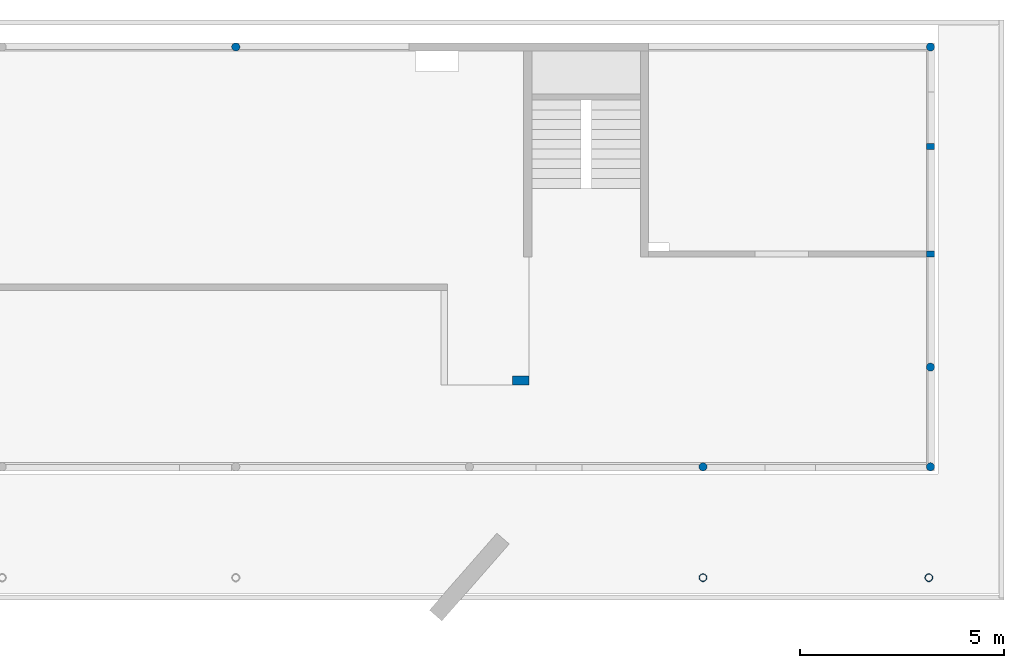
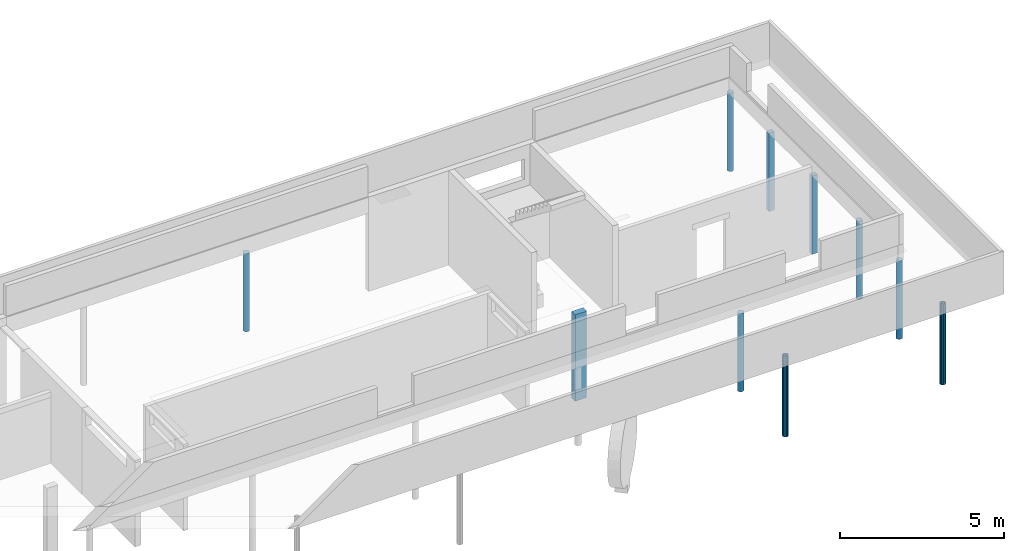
# One storey, part 2 of 5: 10 columns.
"""IFC4 building model written with IfcOpenShell, lengths in metres."""

from ifc_helpers import new_model, entity, si_unit, converted_unit, derived_unit, frame, frame_2d, origin, origin_with_axes, place, context, subcontext, project, spatial, polyline, rectangle, outline, extrude, material, element, save


model = new_model("IFC4")

# Units and contexts
model_context = context("Model", 3, precision=1e-05, world=origin())
plan_context = context("Plan", 2, precision=1e-05, world=origin())
body_context = subcontext(model_context, "Body", "Model", "MODEL_VIEW")
ifc_project = project(units=[si_unit("LENGTHUNIT", "METRE"), si_unit("AREAUNIT", "SQUARE_METRE"), si_unit("VOLUMEUNIT", "CUBIC_METRE"), si_unit("MASSUNIT", "GRAM", prefix="KILO"), converted_unit("PLANEANGLEUNIT", "DEGREE", entity("IfcPlaneAngleMeasure", 0.0174532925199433), si_unit("PLANEANGLEUNIT", "RADIAN"), dimensions=[0, 0, 0, 0, 0, 0, 0]), derived_unit("THERMALTRANSMITTANCEUNIT", [(si_unit("POWERUNIT", "WATT"), 1), (si_unit("THERMODYNAMICTEMPERATUREUNIT", "KELVIN"), -1), (si_unit("LENGTHUNIT", "METRE"), -2)]), derived_unit("VOLUMETRICFLOWRATEUNIT", [(si_unit("LENGTHUNIT", "METRE"), 3), (converted_unit("TIMEUNIT", "hour", entity("IfcTimeMeasure", 3600.0), si_unit("TIMEUNIT", "SECOND"), dimensions=[0, 0, 1, 0, 0, 0, 0]), -1), (si_unit("LENGTHUNIT", "METRE"), -1)])], contexts=[model_context, plan_context])

# Site, building, storey
site_placement = place(None, origin())
site = spatial("IfcSite", under=ifc_project, at=site_placement, Name="Site", CompositionType="ELEMENT")
building_placement = place(site_placement, origin())
building = spatial("IfcBuilding", under=site, at=building_placement, Name="Admin", CompositionType="ELEMENT")
storey_placement = place(building_placement, frame((0.0, 0.0, -0.26)))
storey = spatial("IfcBuildingStorey", under=building, at=storey_placement, Name="00-Rez", CompositionType="ELEMENT", Elevation=-0.26)

# Columns
ifc_material_1 = material(Name="S235")
column_1_placement = place(storey_placement, frame((57.9829496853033, 9.16002760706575, -0.04)))
element("IfcColumn", 1, at=column_1_placement, inside=storey, material=ifc_material_1, Name="CBM.0.06", PredefinedType="COLUMN", context=body_context, shape_type="SweptSolid", body=[
    extrude(outline(polyline([(0.193699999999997, 0.0944217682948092), (0.18410883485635, 0.136443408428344), (0.157234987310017, 0.170142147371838), (0.118401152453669, 0.188843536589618), (0.075298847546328, 0.188843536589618), (0.0364650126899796, 0.170142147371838), (0.00959116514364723, 0.136443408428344), (0.0, 0.0944217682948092), (0.00959116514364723, 0.0524001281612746), (0.0364650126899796, 0.0187013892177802), (0.075298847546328, 0.0), (0.118401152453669, 0.0), (0.157234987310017, 0.0187013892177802), (0.18410883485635, 0.0524001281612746), (0.193699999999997, 0.0944217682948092)]), holes=[polyline([(0.183699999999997, 0.0944217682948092), (0.17206430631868, 0.05099676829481), (0.140275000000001, 0.0192074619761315), (0.0968499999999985, 0.00757176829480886), (0.0534249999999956, 0.0192074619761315), (0.0216356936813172, 0.05099676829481), (0.01, 0.0944217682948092), (0.0216356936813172, 0.137846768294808), (0.0534249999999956, 0.169636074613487), (0.0968499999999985, 0.18127176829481), (0.140275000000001, 0.169636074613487), (0.17206430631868, 0.137846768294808), (0.183699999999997, 0.0944217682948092)])]), origin_with_axes(), (0.0, 0.0, 1.0), 3.0),
])
ifc_material_2 = material(Name="S235")
column_2_placement = place(storey_placement, frame((52.4529501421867, 9.16002760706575, -0.04)))
element("IfcColumn", 2, at=column_2_placement, inside=storey, material=ifc_material_2, Name="CBM.0.05", PredefinedType="COLUMN", context=body_context, shape_type="SweptSolid", body=[
    extrude(outline(polyline([(0.193699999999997, 0.0944217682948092), (0.18410883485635, 0.136443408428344), (0.157234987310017, 0.170142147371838), (0.118401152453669, 0.188843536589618), (0.075298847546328, 0.188843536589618), (0.0364650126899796, 0.170142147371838), (0.00959116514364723, 0.136443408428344), (0.0, 0.0944217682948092), (0.00959116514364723, 0.0524001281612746), (0.0364650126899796, 0.0187013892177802), (0.075298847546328, 0.0), (0.118401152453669, 0.0), (0.157234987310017, 0.0187013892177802), (0.18410883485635, 0.0524001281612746), (0.193699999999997, 0.0944217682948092)]), holes=[polyline([(0.183699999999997, 0.0944217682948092), (0.17206430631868, 0.05099676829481), (0.140275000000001, 0.0192074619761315), (0.0968499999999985, 0.00757176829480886), (0.0534249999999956, 0.0192074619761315), (0.0216356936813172, 0.05099676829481), (0.01, 0.0944217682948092), (0.0216356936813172, 0.137846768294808), (0.0534249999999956, 0.169636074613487), (0.0968499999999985, 0.18127176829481), (0.140275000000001, 0.169636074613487), (0.17206430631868, 0.137846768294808), (0.183699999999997, 0.0944217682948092)])]), origin_with_axes(), (0.0, 0.0, 1.0), 3.0),
])
ifc_material_3 = material(Name="C30/37")
column_3_placement = place(storey_placement, frame((52.4502124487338, 11.8698621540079, 0.0)))
element("IfcColumn", 3, at=column_3_placement, inside=storey, material=ifc_material_3, Name="CBA.0.06", PredefinedType="COLUMN", context=body_context, shape_type="SweptSolid", body=[
    extrude(outline(polyline([(0.115360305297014, 0.199174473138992), (0.0838141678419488, 0.199174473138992), (0.0538120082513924, 0.189426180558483), (0.0282906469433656, 0.170883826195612), (0.00974829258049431, 0.145362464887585), (0.0, 0.115360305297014), (0.0, 0.0838141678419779), (0.00974829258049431, 0.053812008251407), (0.0282906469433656, 0.0282906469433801), (0.0538120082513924, 0.00974829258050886), (0.0838141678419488, 0.0), (0.115360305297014, 0.0), (0.14536246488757, 0.00974829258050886), (0.170883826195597, 0.0282906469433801), (0.189426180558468, 0.053812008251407), (0.199174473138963, 0.0838141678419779), (0.199174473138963, 0.115360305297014), (0.189426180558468, 0.145362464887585), (0.170883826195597, 0.170883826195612), (0.14536246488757, 0.189426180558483), (0.115360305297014, 0.199174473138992)])), origin_with_axes(), (0.0, 0.0, 1.0), 2.91),
])
ifc_material_4 = material(Name="C30/37")
column_4_placement = place(storey_placement, frame((58.0202124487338, 22.1498621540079, 0.0)))
element("IfcColumn", 4, at=column_4_placement, inside=storey, material=ifc_material_4, Name="CBA.0.11", PredefinedType="COLUMN", context=body_context, shape_type="SweptSolid", body=[
    extrude(outline(polyline([(0.115360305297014, 0.199174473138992), (0.0838141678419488, 0.199174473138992), (0.0538120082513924, 0.189426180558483), (0.0282906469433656, 0.170883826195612), (0.00974829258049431, 0.145362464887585), (0.0, 0.115360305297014), (0.0, 0.0838141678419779), (0.00974829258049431, 0.053812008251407), (0.0282906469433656, 0.0282906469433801), (0.0538120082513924, 0.00974829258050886), (0.0838141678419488, 0.0), (0.115360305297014, 0.0), (0.14536246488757, 0.00974829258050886), (0.170883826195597, 0.0282906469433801), (0.189426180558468, 0.053812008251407), (0.199174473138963, 0.0838141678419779), (0.199174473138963, 0.115360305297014), (0.189426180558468, 0.145362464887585), (0.170883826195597, 0.170883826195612), (0.14536246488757, 0.189426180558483), (0.115360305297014, 0.199174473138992)])), origin_with_axes(), (0.0, 0.0, 1.0), 2.91),
])
ifc_material_5 = material(Name="C30/37")
column_5_placement = place(storey_placement, frame((58.0202124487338, 14.3098621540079, 0.0)))
element("IfcColumn", 5, at=column_5_placement, inside=storey, material=ifc_material_5, Name="CBA.0.08", PredefinedType="COLUMN", context=body_context, shape_type="SweptSolid", body=[
    extrude(outline(polyline([(0.115360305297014, 0.199174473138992), (0.0838141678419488, 0.199174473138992), (0.0538120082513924, 0.189426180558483), (0.0282906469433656, 0.170883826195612), (0.00974829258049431, 0.145362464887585), (0.0, 0.115360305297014), (0.0, 0.0838141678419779), (0.00974829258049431, 0.053812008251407), (0.0282906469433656, 0.0282906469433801), (0.0538120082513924, 0.00974829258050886), (0.0838141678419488, 0.0), (0.115360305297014, 0.0), (0.14536246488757, 0.00974829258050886), (0.170883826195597, 0.0282906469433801), (0.189426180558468, 0.053812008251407), (0.199174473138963, 0.0838141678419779), (0.199174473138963, 0.115360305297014), (0.189426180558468, 0.145362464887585), (0.170883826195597, 0.170883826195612), (0.14536246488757, 0.189426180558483), (0.115360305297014, 0.199174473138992)])), origin_with_axes(), (0.0, 0.0, 1.0), 2.91),
])
ifc_material_6 = material(Name="C30/37")
column_6_placement = place(storey_placement, frame((58.0202124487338, 11.8698621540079, 0.0)))
element("IfcColumn", 6, at=column_6_placement, inside=storey, material=ifc_material_6, Name="CBA.0.07", PredefinedType="COLUMN", context=body_context, shape_type="SweptSolid", body=[
    extrude(outline(polyline([(0.115360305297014, 0.199174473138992), (0.0838141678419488, 0.199174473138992), (0.0538120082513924, 0.189426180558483), (0.0282906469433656, 0.170883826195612), (0.00974829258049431, 0.145362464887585), (0.0, 0.115360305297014), (0.0, 0.0838141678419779), (0.00974829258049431, 0.053812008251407), (0.0282906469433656, 0.0282906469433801), (0.0538120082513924, 0.00974829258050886), (0.0838141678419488, 0.0), (0.115360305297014, 0.0), (0.14536246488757, 0.00974829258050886), (0.170883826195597, 0.0282906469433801), (0.189426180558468, 0.053812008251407), (0.199174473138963, 0.0838141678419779), (0.199174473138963, 0.115360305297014), (0.189426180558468, 0.145362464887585), (0.170883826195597, 0.170883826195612), (0.14536246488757, 0.189426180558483), (0.115360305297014, 0.199174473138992)])), origin_with_axes(), (0.0, 0.0, 1.0), 2.91),
])
ifc_material_7 = material(Name="C30/37")
column_7_placement = place(storey_placement, frame((41.0102124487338, 22.1498621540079, 0.0)))
element("IfcColumn", 7, at=column_7_placement, inside=storey, material=ifc_material_7, Name="CBA.0.12", PredefinedType="COLUMN", context=body_context, shape_type="SweptSolid", body=[
    extrude(outline(polyline([(0.115360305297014, 0.199174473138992), (0.0838141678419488, 0.199174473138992), (0.0538120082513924, 0.189426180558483), (0.0282906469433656, 0.170883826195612), (0.00974829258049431, 0.145362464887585), (0.0, 0.115360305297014), (0.0, 0.0838141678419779), (0.00974829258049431, 0.053812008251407), (0.0282906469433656, 0.0282906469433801), (0.0538120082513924, 0.00974829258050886), (0.0838141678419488, 0.0), (0.115360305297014, 0.0), (0.14536246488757, 0.00974829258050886), (0.170883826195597, 0.0282906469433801), (0.189426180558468, 0.053812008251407), (0.199174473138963, 0.0838141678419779), (0.199174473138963, 0.115360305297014), (0.189426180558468, 0.145362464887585), (0.170883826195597, 0.170883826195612), (0.14536246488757, 0.189426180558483), (0.115360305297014, 0.199174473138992)])), origin_with_axes(), (0.0, 0.0, 1.0), 2.91),
])
ifc_material_8 = material(Name="C30/37")
column_8_placement = place(storey_placement, frame((58.0197996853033, 19.7344493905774, 0.0)))
element("IfcColumn", 8, at=column_8_placement, inside=storey, material=ifc_material_8, Name="CBA.0.10", PredefinedType="COLUMN", context=body_context, shape_type="SweptSolid", body=[
    extrude(rectangle(XDim=0.2, YDim=0.15, at=frame_2d((0.1, 0.075), x_axis=(1.0, 0.0))), origin_with_axes(), (0.0, 0.0, 1.0), 2.91),
])
ifc_material_9 = material(Name="C30/37")
column_9_placement = place(storey_placement, frame((58.0197996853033, 17.1094493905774, 0.0)))
element("IfcColumn", 9, at=column_9_placement, inside=storey, material=ifc_material_9, Name="CBA.0.09", PredefinedType="COLUMN", context=body_context, shape_type="SweptSolid", body=[
    extrude(rectangle(XDim=0.200000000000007, YDim=0.15, at=frame_2d((0.1, 0.075), x_axis=(1.0, 0.0))), origin_with_axes(), (0.0, 0.0, 1.0), 2.91),
])
ifc_material_10 = material(Name="C30/37")
column_10_placement = place(storey_placement, frame((47.8898001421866, 13.9694493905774, 0.0)))
element("IfcColumn", 10, at=column_10_placement, inside=storey, material=ifc_material_10, Name="CBA.0.16", PredefinedType="COLUMN", context=body_context, shape_type="SweptSolid", body=[
    extrude(rectangle(XDim=0.4, YDim=0.22, at=frame_2d((0.2, 0.11), x_axis=(1.0, 0.0))), origin_with_axes(), (0.0, 0.0, 1.0), 3.21),
])

save(model, "model.ifc")
